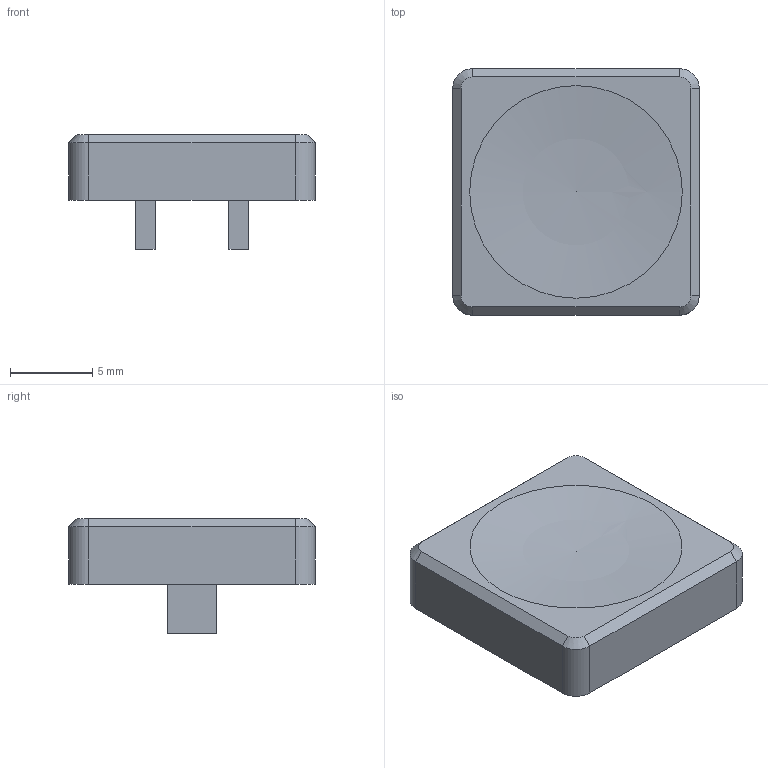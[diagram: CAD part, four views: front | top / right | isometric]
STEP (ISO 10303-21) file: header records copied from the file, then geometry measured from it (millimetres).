
FILE_DESCRIPTION(('Open CASCADE Model'),'2;1');
FILE_NAME('Open CASCADE Shape Model','2026-10-20T19:36:09',('Author'),( 'Open CASCADE'),'Open CASCADE STEP processor 7.9','Open CASCADE 7.9' ,'Unknown');
FILE_SCHEMA(('AUTOMOTIVE_DESIGN { 1 0 10303 214 1 1 1 1 }'));
Length unit declared in the file: millimetre
Products named in the file (1): Open CASCADE STEP translator 7.9 3
Bounding box: 15 x 15 x 7 mm (x, y, z)
Volume: 886.5 mm3; surface area: 712.8 mm2
Topology: 1 solids, 1 shells, 29 faces, 67 edges, 42 vertices
Faces by surface type: plane 20, cylinder 4, cone 4, sphere 1
Entity records: 1676 total; most frequent: CARTESIAN_POINT 322, DIRECTION 250, LINE 159, VECTOR 159, ORIENTED_EDGE 132, PCURVE 132, DEFINITIONAL_REPRESENTATION 132, EDGE_CURVE 66
